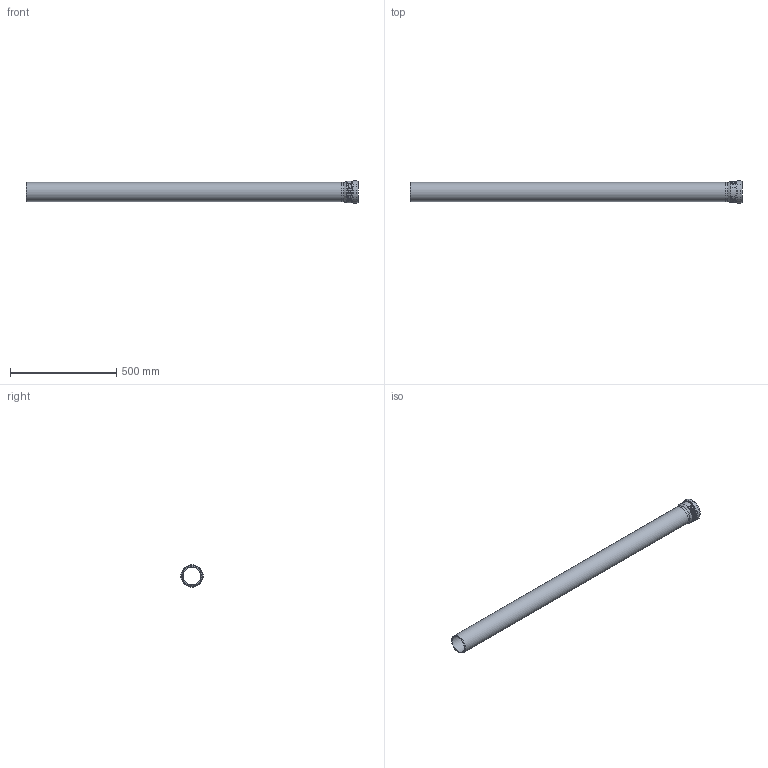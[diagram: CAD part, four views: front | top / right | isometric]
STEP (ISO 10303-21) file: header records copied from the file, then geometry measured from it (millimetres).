
FILE_DESCRIPTION(/* description */ (''),/* implementation_level */ '2;1');
FILE_NAME(/* name */ 'H:\Geberit-Teile\Export\PP_Rohr\stp\393405.stp',/* time_stamp */ '2017-02-13T16:07:32+01:00',/* author */ ('seihe2'),/* organization */ (''),/* preprocessor_version */ 'ST-DEVELOPER v15.2',/* originating_system */ 'Autodesk Inventor 2014',/* authorisation */ '');
FILE_SCHEMA (('AUTOMOTIVE_DESIGN { 1 0 10303 214 3 1 1 }'));
Length unit declared in the file: millimetre
Products named in the file (1): 393405
Bounding box: 1561 x 107 x 107 mm (x, y, z)
Volume: 1834685.7 mm3; surface area: 864455.3 mm2
Topology: 2 solids, 2 shells, 38 faces, 81 edges, 56 vertices
Faces by surface type: torus 17, cylinder 10, plane 8, cone 2, bspline 1
Full cylindrical faces by diameter (mm): 81.6 x2, 90.2 x2, 91 x1, 93 x1, 98.8 x1, 100 x1, 100.8 x1, 107 x1
Entity records: 2149 total; most frequent: CARTESIAN_POINT 1370, DIRECTION 130, ORIENTED_EDGE 124, EDGE_LOOP 69, AXIS2_PLACEMENT_3D 65, EDGE_CURVE 62, VERTEX_POINT 55, STYLED_ITEM 40
